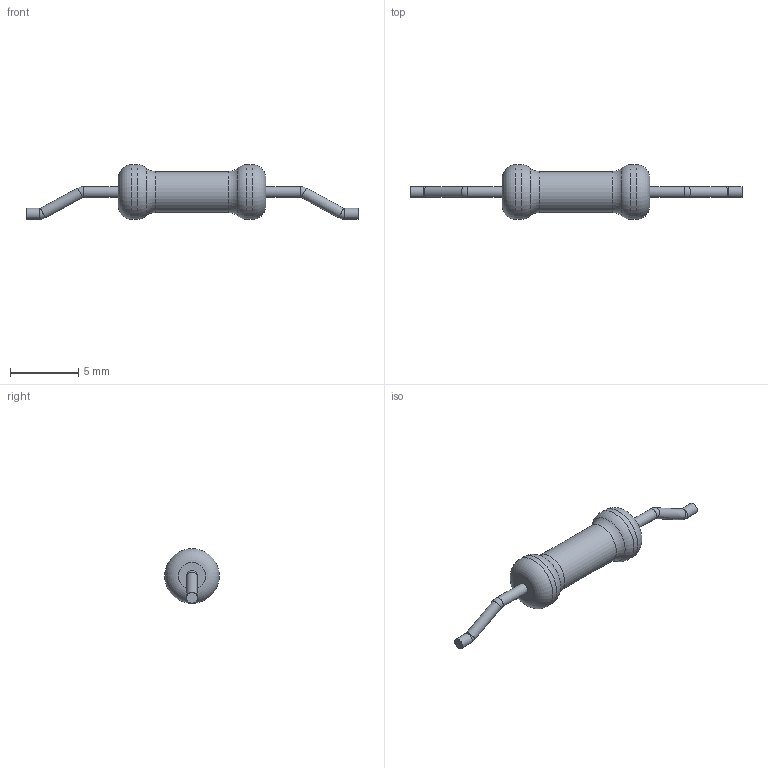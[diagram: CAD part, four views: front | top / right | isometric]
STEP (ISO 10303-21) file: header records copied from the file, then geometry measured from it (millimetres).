
FILE_DESCRIPTION(('STEP AP203'), '1');
FILE_NAME('C2-33苂-0.25(3)', '', ('UNSPECIFIED'), ('UNSPECIFIED'), 'ASCON STEP Converter 1.6', 'ASCON Math Kernel', '');
FILE_SCHEMA(('CONFIG_CONTROL_DESIGN'));
Length unit declared in the file: millimetre
Bounding box: 24.3 x 4 x 4 mm (x, y, z)
Volume: 101.2 mm3; surface area: 166.8 mm2
Topology: 1 solids, 1 shells, 23 faces, 41 edges, 22 vertices
Faces by surface type: torus 10, cylinder 9, plane 4
Full cylindrical faces by diameter (mm): 0.8 x6, 3 x1, 4 x2
Entity records: 682 total; most frequent: DIRECTION 92, CARTESIAN_POINT 68, AXIS2_PLACEMENT_3D 46, EDGE_LOOP 44, ORIENTED_EDGE 44, FACE_OUTER_BOUND 38, COLOUR_RGB 24, FILL_AREA_STYLE_COLOUR 24
